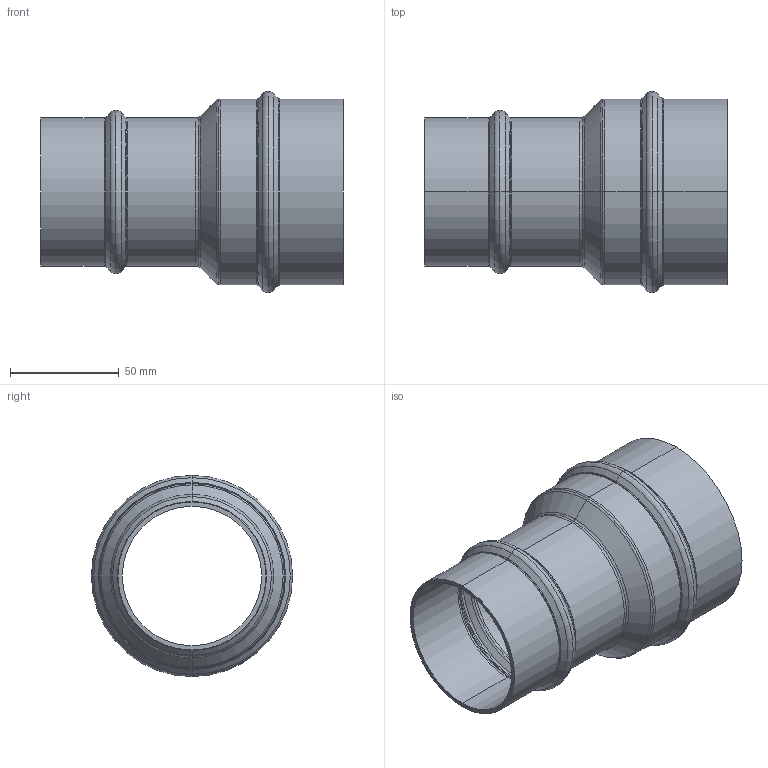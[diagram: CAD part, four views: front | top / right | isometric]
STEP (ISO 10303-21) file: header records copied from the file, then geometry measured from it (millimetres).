
FILE_DESCRIPTION(/* description */ (''),/* implementation_level */ '2;1');
FILE_NAME(/* name */ '7621_stp.stp',/* time_stamp */ '2025-06-20T11:26:58+08:00',/* author */ (''),/* organization */ (''),/* preprocessor_version */ 'ST-DEVELOPER v14',/* originating_system */ 'SIEMENS PLM Software NX 8.0',/* authorisation */ '');
FILE_SCHEMA (('AP203_CONFIGURATION_CONTROLLED_3D_DESIGN_OF_MECHANICAL_PARTS_AND_ASSEMBLIES_MIM_LF { 1 0 10303 403 2 1 2}'));
Length unit declared in the file: millimetre
Products named in the file (1): Admi144825784xds
Bounding box: 139 x 92.4 x 92.4 mm (x, y, z)
Volume: 68875.7 mm3; surface area: 69814.4 mm2
Topology: 1 solids, 1 shells, 102 faces, 204 edges, 104 vertices
Faces by surface type: torus 64, cone 20, cylinder 16, plane 2
Entity records: 2724 total; most frequent: DIRECTION 578, CARTESIAN_POINT 411, ORIENTED_EDGE 408, AXIS2_PLACEMENT_3D 271, EDGE_CURVE 204, CIRCLE 168, EDGE_LOOP 104, VERTEX_POINT 104
